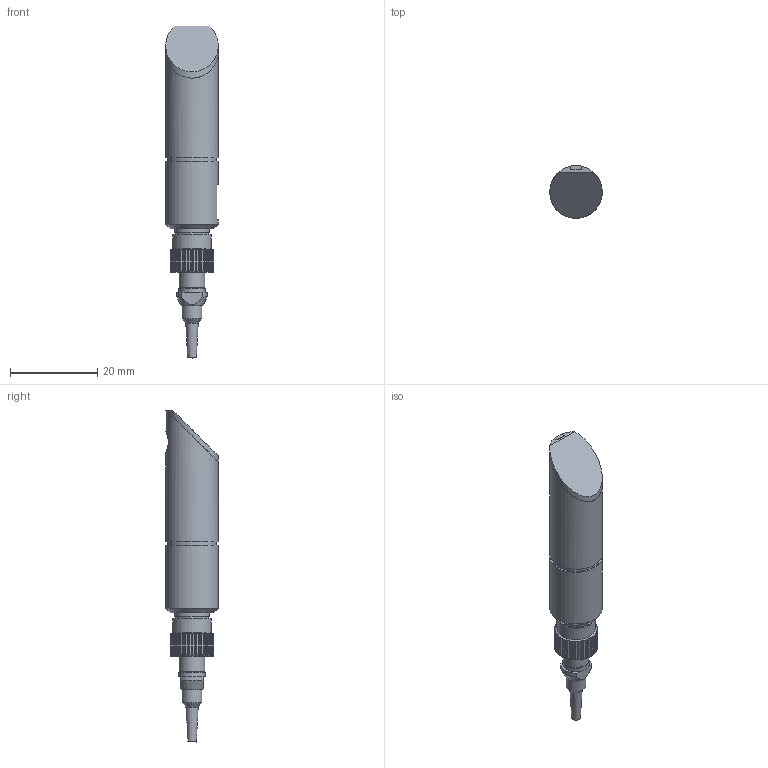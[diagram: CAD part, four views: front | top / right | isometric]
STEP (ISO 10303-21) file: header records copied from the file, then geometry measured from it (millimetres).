
FILE_DESCRIPTION(/* description */ (''),/* implementation_level */ '2;1');
FILE_NAME(/* name */ 'K:\ME\CAD Daten\IFS2404\90°\IFS2404_90-2_20191106.stp',/* time_stamp */ '2019-11-06T12:42:09+01:00',/* author */ ('sven'),/* organization */ (''),/* preprocessor_version */ 'ST-DEVELOPER v16.13',/* originating_system */ 'Autodesk Inventor 2018',/* authorisation */ '');
FILE_SCHEMA (('AUTOMOTIVE_DESIGN { 1 0 10303 214 3 1 1 }'));
Length unit declared in the file: millimetre
Products named in the file (12): IFS2404_90-2; steckergehäuse; stecker_komplett; plugFrame; stop-ring_fürVAC; faserferrule8°; couplingnut; rubber_boot; 10.00160_Außenrohr; 10.00161_Deckel; fenster; 10.00163_Prismenhalter
Assembly tree (11 placements, depth 3):
  IFS2404_90-2
    steckergehäuse
    stecker_komplett
      plugFrame
      stop-ring_fürVAC
      faserferrule8°
      couplingnut
      rubber_boot
    10.00160_Außenrohr
    10.00161_Deckel
    fenster
    10.00163_Prismenhalter
Bounding box: 12 x 12 x 75.96 mm (x, y, z)
Volume: 2776.6 mm3; surface area: 6145.7 mm2
Topology: 10 solids, 10 shells, 235 faces, 586 edges, 382 vertices
Faces by surface type: cylinder 148, plane 65, cone 21, torus 1
Full cylindrical faces by diameter (mm): 1 x1, 1.2 x1, 2 x3, 2.5 x4, 2.6 x1, 3 x2, 4 x1, 4.3 x1, 4.5 x2, 4.9 x2, 5 x2, 5.44 x1, 5.5 x1, 5.9 x2, 6 x1, 6.1 x1, 6.3 x1, 6.9 x1, 7.447 x1, 8 x4, 8.2 x1, 8.8 x1, 10 x1, 10.598 x1, 11.2 x2, 12 x2
Entity records: 9267 total; most frequent: CARTESIAN_POINT 3581, DIRECTION 1124, ORIENTED_EDGE 1002, EDGE_CURVE 501, AXIS2_PLACEMENT_3D 479, VERTEX_POINT 361, EDGE_LOOP 330, FACE_OUTER_BOUND 235
